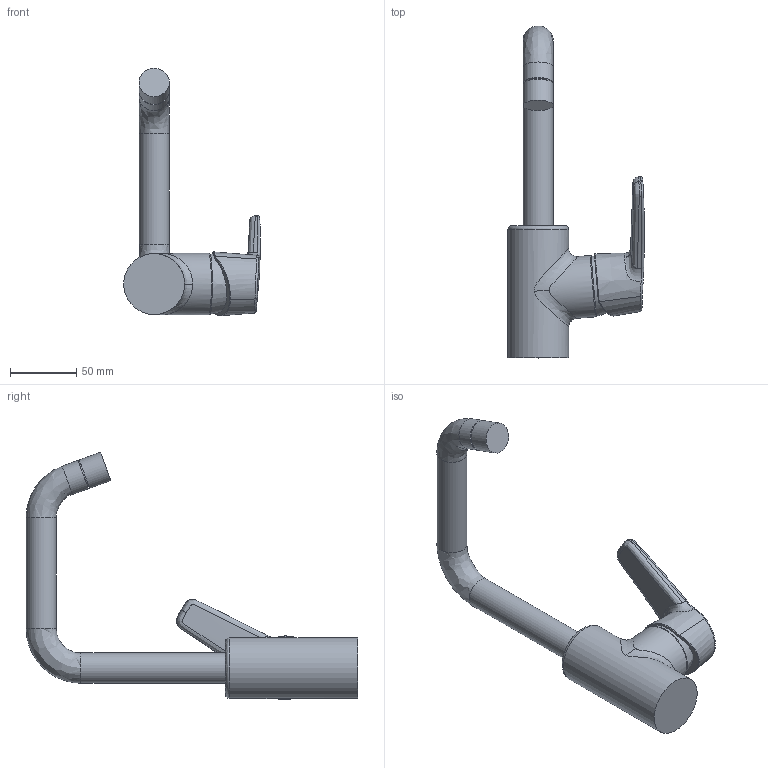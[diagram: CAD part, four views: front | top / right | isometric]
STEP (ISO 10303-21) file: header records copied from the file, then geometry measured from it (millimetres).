
FILE_DESCRIPTION (( 'STEP AP203' ), '1' );
FILE_NAME ('3907F(2016)+51542293.STEP', '2017-03-09T05:50:31', ( '' ), ( '' ), 'SwSTEP 2.0', 'SolidWorks 2016', '' );
FILE_SCHEMA (( 'CONFIG_CONTROL_DESIGN' ));
Length unit declared in the file: millimetre
Products named in the file (1): 3907F(2016)+51542293
Bounding box: 103.2 x 250.6 x 187.05 mm (x, y, z)
Volume: 405628.6 mm3; surface area: 52819.6 mm2
Topology: 1 solids, 1 shells, 52 faces, 152 edges, 107 vertices
Faces by surface type: bspline 34, plane 8, cylinder 8, torus 1, cone 1
Full cylindrical faces by diameter (mm): 20.633 x1, 22.8 x4, 46 x1
Entity records: 18087 total; most frequent: CARTESIAN_POINT 17007, ORIENTED_EDGE 272, EDGE_CURVE 136, B_SPLINE_CURVE_WITH_KNOTS 108, VERTEX_POINT 103, DIRECTION 85, EDGE_LOOP 69, FACE_OUTER_BOUND 64
